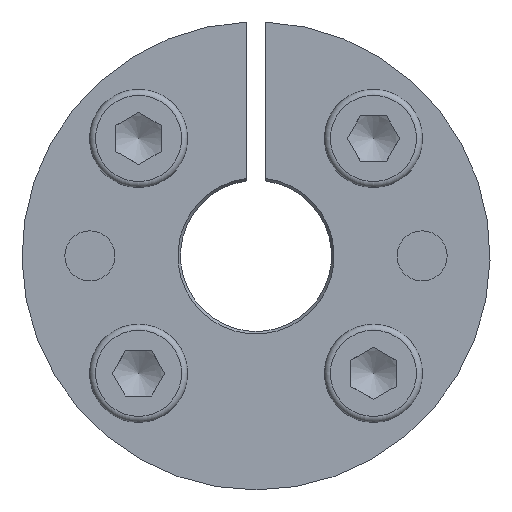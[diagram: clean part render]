
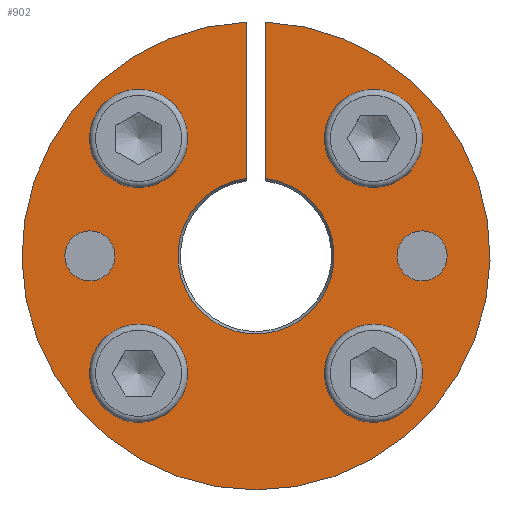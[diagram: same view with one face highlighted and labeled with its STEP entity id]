
A CAD part, left-side view. The second image highlights one B-rep face of the part: STEP entity #902.
In plain terms, the highlighted planar face has unit normal (-1, 0, 0).
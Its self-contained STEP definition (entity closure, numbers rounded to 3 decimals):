
#78=FACE_BOUND('',#184,.T.);
#79=FACE_BOUND('',#185,.T.);
#80=FACE_BOUND('',#186,.T.);
#81=FACE_BOUND('',#187,.T.);
#82=FACE_BOUND('',#188,.T.);
#83=FACE_BOUND('',#189,.T.);
#98=PLANE('',#1062);
#134=FACE_OUTER_BOUND('',#183,.T.);
#183=EDGE_LOOP('',(#713,#714,#715,#716));
#184=EDGE_LOOP('',(#717));
#185=EDGE_LOOP('',(#718));
#186=EDGE_LOOP('',(#719));
#187=EDGE_LOOP('',(#720));
#188=EDGE_LOOP('',(#721));
#189=EDGE_LOOP('',(#722));
#242=LINE('',#1598,#292);
#243=LINE('',#1606,#293);
#292=VECTOR('',#1210,10.);
#293=VECTOR('',#1213,10.);
#331=CIRCLE('',#1019,3.324);
#333=CIRCLE('',#1022,3.324);
#336=CIRCLE('',#1026,4.5);
#339=CIRCLE('',#1030,4.5);
#342=CIRCLE('',#1034,4.5);
#351=CIRCLE('',#1045,4.5);
#358=CIRCLE('',#1061,10.346);
#359=CIRCLE('',#1063,31.);
#389=VERTEX_POINT('',#1415);
#391=VERTEX_POINT('',#1421);
#395=VERTEX_POINT('',#1450);
#399=VERTEX_POINT('',#1479);
#403=VERTEX_POINT('',#1508);
#411=VERTEX_POINT('',#1550);
#415=VERTEX_POINT('',#1579);
#420=VERTEX_POINT('',#1596);
#421=VERTEX_POINT('',#1600);
#423=VERTEX_POINT('',#1605);
#478=EDGE_CURVE('',#389,#389,#331,.T.);
#481=EDGE_CURVE('',#391,#391,#333,.T.);
#486=EDGE_CURVE('',#395,#395,#336,.T.);
#491=EDGE_CURVE('',#399,#399,#339,.T.);
#496=EDGE_CURVE('',#403,#403,#342,.T.);
#509=EDGE_CURVE('',#411,#411,#351,.T.);
#520=EDGE_CURVE('',#415,#420,#242,.T.);
#522=EDGE_CURVE('',#423,#421,#243,.T.);
#534=EDGE_CURVE('',#421,#415,#358,.T.);
#535=EDGE_CURVE('',#423,#420,#359,.T.);
#713=ORIENTED_EDGE('',*,*,#520,.T.);
#714=ORIENTED_EDGE('',*,*,#535,.F.);
#715=ORIENTED_EDGE('',*,*,#522,.T.);
#716=ORIENTED_EDGE('',*,*,#534,.T.);
#717=ORIENTED_EDGE('',*,*,#478,.T.);
#718=ORIENTED_EDGE('',*,*,#481,.T.);
#719=ORIENTED_EDGE('',*,*,#486,.T.);
#720=ORIENTED_EDGE('',*,*,#491,.T.);
#721=ORIENTED_EDGE('',*,*,#496,.T.);
#722=ORIENTED_EDGE('',*,*,#509,.T.);
#902=ADVANCED_FACE('',(#134,#78,#79,#80,#81,#82,#83),#98,.T.);
#1019=AXIS2_PLACEMENT_3D('',#1417,#1139,#1140);
#1022=AXIS2_PLACEMENT_3D('',#1423,#1146,#1147);
#1026=AXIS2_PLACEMENT_3D('',#1452,#1155,#1156);
#1030=AXIS2_PLACEMENT_3D('',#1481,#1164,#1165);
#1034=AXIS2_PLACEMENT_3D('',#1510,#1173,#1174);
#1045=AXIS2_PLACEMENT_3D('',#1552,#1198,#1199);
#1061=AXIS2_PLACEMENT_3D('',#1632,#1240,#1241);
#1062=AXIS2_PLACEMENT_3D('',#1633,#1242,#1243);
#1063=AXIS2_PLACEMENT_3D('',#1634,#1244,#1245);
#1139=DIRECTION('center_axis',(1.,0.,0.));
#1140=DIRECTION('ref_axis',(0.,0.,1.));
#1146=DIRECTION('center_axis',(1.,0.,0.));
#1147=DIRECTION('ref_axis',(0.,0.,-1.));
#1155=DIRECTION('center_axis',(1.,0.,0.));
#1156=DIRECTION('ref_axis',(0.,-1.,0.));
#1164=DIRECTION('center_axis',(1.,0.,0.));
#1165=DIRECTION('ref_axis',(0.,0.,1.));
#1173=DIRECTION('center_axis',(1.,0.,0.));
#1174=DIRECTION('ref_axis',(0.,1.,0.));
#1198=DIRECTION('center_axis',(1.,0.,0.));
#1199=DIRECTION('ref_axis',(0.,0.,-1.));
#1210=DIRECTION('',(0.,0.,1.));
#1213=DIRECTION('',(0.,0.,-1.));
#1240=DIRECTION('center_axis',(1.,0.,0.));
#1241=DIRECTION('ref_axis',(0.,0.,-1.));
#1242=DIRECTION('center_axis',(-1.,0.,0.));
#1243=DIRECTION('ref_axis',(0.,0.,1.));
#1244=DIRECTION('center_axis',(1.,0.,0.));
#1245=DIRECTION('ref_axis',(0.,0.,-1.));
#1415=CARTESIAN_POINT('',(0.,-22.,-3.324));
#1417=CARTESIAN_POINT('Origin',(0.,-22.,0.));
#1421=CARTESIAN_POINT('',(0.,22.,3.324));
#1423=CARTESIAN_POINT('Origin',(0.,22.,0.));
#1450=CARTESIAN_POINT('',(0.,20.056,-15.556));
#1452=CARTESIAN_POINT('Origin',(0.,15.556,-15.556));
#1479=CARTESIAN_POINT('',(0.,-15.556,-20.056));
#1481=CARTESIAN_POINT('Origin',(0.,-15.556,-15.556));
#1508=CARTESIAN_POINT('',(0.,-20.056,15.556));
#1510=CARTESIAN_POINT('Origin',(0.,-15.556,15.556));
#1550=CARTESIAN_POINT('',(0.,15.556,20.056));
#1552=CARTESIAN_POINT('Origin',(0.,15.556,15.556));
#1579=CARTESIAN_POINT('',(0.,1.25,10.271));
#1596=CARTESIAN_POINT('',(0.,1.25,30.975));
#1598=CARTESIAN_POINT('',(0.,1.25,1.337));
#1600=CARTESIAN_POINT('',(0.,-1.25,10.271));
#1605=CARTESIAN_POINT('',(0.,-1.25,30.975));
#1606=CARTESIAN_POINT('',(0.,-1.25,16.617));
#1632=CARTESIAN_POINT('Origin',(0.,0.,0.));
#1633=CARTESIAN_POINT('Origin',(0.,31.,0.));
#1634=CARTESIAN_POINT('Origin',(0.,0.,0.));
